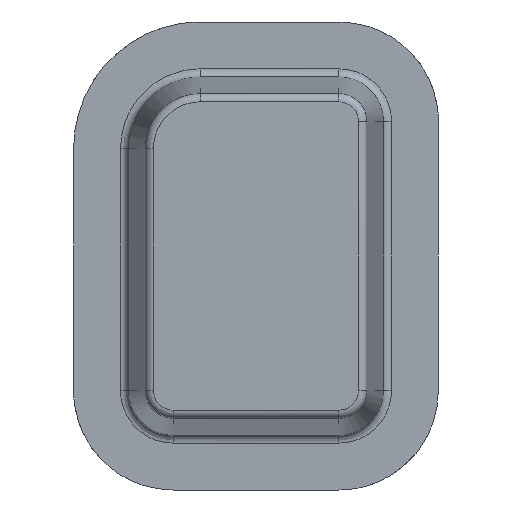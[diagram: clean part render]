
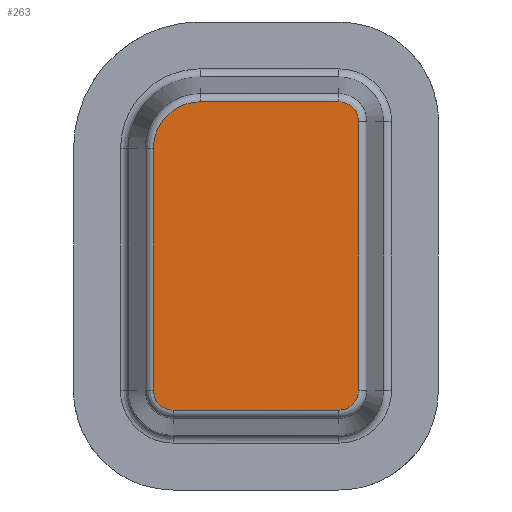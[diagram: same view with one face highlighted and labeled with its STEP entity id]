
A CAD part, front view. The second image highlights one B-rep face of the part: STEP entity #263.
In plain terms, the highlighted planar face has unit normal (0, -1, 0).
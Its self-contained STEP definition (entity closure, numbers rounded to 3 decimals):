
#144=CARTESIAN_POINT('Axis2P3D Location',(41.58,0.,58.42)) ;
#149=CARTESIAN_POINT('Line Origine',(2.749,0.,54.5)) ;
#153=CARTESIAN_POINT('Vertex',(2.749,0.,99.)) ;
#155=CARTESIAN_POINT('Vertex',(2.749,0.,10.)) ;
#159=CARTESIAN_POINT('Control Point',(2.749,0.,10.)) ;
#160=CARTESIAN_POINT('Control Point',(2.749,0.,9.039)) ;
#161=CARTESIAN_POINT('Control Point',(2.908,0.,8.077)) ;
#162=CARTESIAN_POINT('Control Point',(3.227,0.,7.153)) ;
#163=CARTESIAN_POINT('Control Point',(4.157,0.,5.443)) ;
#164=CARTESIAN_POINT('Control Point',(5.588,0.,4.125)) ;
#165=CARTESIAN_POINT('Control Point',(6.407,0.,3.591)) ;
#166=CARTESIAN_POINT('Control Point',(7.616,0.,3.064)) ;
#167=CARTESIAN_POINT('Control Point',(8.898,0.,2.821)) ;
#168=CARTESIAN_POINT('Control Point',(9.236,0.,2.777)) ;
#169=CARTESIAN_POINT('Control Point',(9.593,0.,2.752)) ;
#170=CARTESIAN_POINT('Control Point',(9.951,0.,2.749)) ;
#171=CARTESIAN_POINT('Control Point',(9.967,0.,2.749)) ;
#172=CARTESIAN_POINT('Control Point',(9.983,0.,2.749)) ;
#173=CARTESIAN_POINT('Control Point',(10.,0.,2.749)) ;
#174=CARTESIAN_POINT('Vertex',(10.,0.,2.749)) ;
#177=CARTESIAN_POINT('Line Origine',(40.5,0.,2.749)) ;
#181=CARTESIAN_POINT('Vertex',(71.,0.,2.749)) ;
#185=CARTESIAN_POINT('Control Point',(71.,0.,2.749)) ;
#186=CARTESIAN_POINT('Control Point',(71.961,0.,2.749)) ;
#187=CARTESIAN_POINT('Control Point',(72.923,0.,2.908)) ;
#188=CARTESIAN_POINT('Control Point',(73.847,0.,3.227)) ;
#189=CARTESIAN_POINT('Control Point',(75.557,0.,4.157)) ;
#190=CARTESIAN_POINT('Control Point',(76.875,0.,5.588)) ;
#191=CARTESIAN_POINT('Control Point',(77.409,0.,6.407)) ;
#192=CARTESIAN_POINT('Control Point',(77.936,0.,7.616)) ;
#193=CARTESIAN_POINT('Control Point',(78.179,0.,8.898)) ;
#194=CARTESIAN_POINT('Control Point',(78.223,0.,9.236)) ;
#195=CARTESIAN_POINT('Control Point',(78.248,0.,9.593)) ;
#196=CARTESIAN_POINT('Control Point',(78.251,0.,9.951)) ;
#197=CARTESIAN_POINT('Control Point',(78.251,0.,9.967)) ;
#198=CARTESIAN_POINT('Control Point',(78.251,0.,9.983)) ;
#199=CARTESIAN_POINT('Control Point',(78.251,0.,10.)) ;
#200=CARTESIAN_POINT('Vertex',(78.251,0.,10.)) ;
#203=CARTESIAN_POINT('Line Origine',(78.251,0.,59.5)) ;
#207=CARTESIAN_POINT('Vertex',(78.251,0.,109.)) ;
#211=CARTESIAN_POINT('Control Point',(78.251,0.,109.)) ;
#212=CARTESIAN_POINT('Control Point',(78.251,0.,109.961)) ;
#213=CARTESIAN_POINT('Control Point',(78.092,0.,110.923)) ;
#214=CARTESIAN_POINT('Control Point',(77.773,0.,111.847)) ;
#215=CARTESIAN_POINT('Control Point',(76.843,0.,113.557)) ;
#216=CARTESIAN_POINT('Control Point',(75.412,0.,114.875)) ;
#217=CARTESIAN_POINT('Control Point',(74.593,0.,115.409)) ;
#218=CARTESIAN_POINT('Control Point',(73.384,0.,115.936)) ;
#219=CARTESIAN_POINT('Control Point',(72.102,0.,116.179)) ;
#220=CARTESIAN_POINT('Control Point',(71.764,0.,116.223)) ;
#221=CARTESIAN_POINT('Control Point',(71.407,0.,116.248)) ;
#222=CARTESIAN_POINT('Control Point',(71.049,0.,116.251)) ;
#223=CARTESIAN_POINT('Control Point',(71.033,0.,116.251)) ;
#224=CARTESIAN_POINT('Control Point',(71.017,0.,116.251)) ;
#225=CARTESIAN_POINT('Control Point',(71.,0.,116.251)) ;
#226=CARTESIAN_POINT('Vertex',(71.,0.,116.251)) ;
#229=CARTESIAN_POINT('Line Origine',(45.5,0.,116.251)) ;
#233=CARTESIAN_POINT('Vertex',(20.,0.,116.251)) ;
#237=CARTESIAN_POINT('Control Point',(20.,0.,116.251)) ;
#238=CARTESIAN_POINT('Control Point',(18.077,0.,116.251)) ;
#239=CARTESIAN_POINT('Control Point',(16.154,0.,115.983)) ;
#240=CARTESIAN_POINT('Control Point',(14.282,0.,115.447)) ;
#241=CARTESIAN_POINT('Control Point',(10.736,0.,113.869)) ;
#242=CARTESIAN_POINT('Control Point',(7.758,0.,111.383)) ;
#243=CARTESIAN_POINT('Control Point',(6.452,0.,109.938)) ;
#244=CARTESIAN_POINT('Control Point',(4.493,0.,107.046)) ;
#245=CARTESIAN_POINT('Control Point',(3.314,0.,103.769)) ;
#246=CARTESIAN_POINT('Control Point',(2.954,0.,102.259)) ;
#247=CARTESIAN_POINT('Control Point',(2.762,0.,100.685)) ;
#248=CARTESIAN_POINT('Control Point',(2.749,0.,99.11)) ;
#249=CARTESIAN_POINT('Control Point',(2.749,0.,99.073)) ;
#250=CARTESIAN_POINT('Control Point',(2.749,0.,99.037)) ;
#251=CARTESIAN_POINT('Control Point',(2.749,0.,99.)) ;
#145=DIRECTION('Axis2P3D Direction',(0.,-1.,0.)) ;
#146=DIRECTION('Axis2P3D XDirection',(0.073,0.,0.997)) ;
#150=DIRECTION('Vector Direction',(0.,0.,1.)) ;
#178=DIRECTION('Vector Direction',(1.,0.,0.)) ;
#204=DIRECTION('Vector Direction',(0.,0.,1.)) ;
#230=DIRECTION('Vector Direction',(-1.,0.,0.)) ;
#147=AXIS2_PLACEMENT_3D('Plane Axis2P3D',#144,#145,#146) ;
#254=ORIENTED_EDGE('',*,*,#157,.T.) ;
#255=ORIENTED_EDGE('',*,*,#176,.T.) ;
#256=ORIENTED_EDGE('',*,*,#183,.T.) ;
#257=ORIENTED_EDGE('',*,*,#202,.T.) ;
#258=ORIENTED_EDGE('',*,*,#209,.T.) ;
#259=ORIENTED_EDGE('',*,*,#228,.T.) ;
#260=ORIENTED_EDGE('',*,*,#235,.T.) ;
#261=ORIENTED_EDGE('',*,*,#252,.T.) ;
#151=VECTOR('Line Direction',#150,1.) ;
#179=VECTOR('Line Direction',#178,1.) ;
#205=VECTOR('Line Direction',#204,1.) ;
#231=VECTOR('Line Direction',#230,1.) ;
#263=ADVANCED_FACE('base',(#262),#148,.T.) ;
#158=B_SPLINE_CURVE_WITH_KNOTS('',5,(#159,#160,#161,#162,#163,#164,#165,#166,#167,#168,#169,#170,#171,#172,#173),.UNSPECIFIED.,.F.,.U.,(6,3,3,3,6),(29.43,39.716,50.007,53.653,53.83),.UNSPECIFIED.) ;
#184=B_SPLINE_CURVE_WITH_KNOTS('',5,(#185,#186,#187,#188,#189,#190,#191,#192,#193,#194,#195,#196,#197,#198,#199),.UNSPECIFIED.,.F.,.U.,(6,3,3,3,6),(29.431,39.716,50.007,53.653,53.83),.UNSPECIFIED.) ;
#210=B_SPLINE_CURVE_WITH_KNOTS('',5,(#211,#212,#213,#214,#215,#216,#217,#218,#219,#220,#221,#222,#223,#224,#225),.UNSPECIFIED.,.F.,.U.,(6,3,3,3,6),(29.431,39.716,50.007,53.653,53.83),.UNSPECIFIED.) ;
#236=B_SPLINE_CURVE_WITH_KNOTS('',5,(#237,#238,#239,#240,#241,#242,#243,#244,#245,#246,#247,#248,#249,#250,#251),.UNSPECIFIED.,.F.,.U.,(6,3,3,3,6),(41.442,57.711,74.,87.023,87.332),.UNSPECIFIED.) ;
#157=EDGE_CURVE('',#154,#156,#152,.F.) ;
#176=EDGE_CURVE('',#156,#175,#158,.T.) ;
#183=EDGE_CURVE('',#175,#182,#180,.T.) ;
#202=EDGE_CURVE('',#182,#201,#184,.T.) ;
#209=EDGE_CURVE('',#201,#208,#206,.T.) ;
#228=EDGE_CURVE('',#208,#227,#210,.T.) ;
#235=EDGE_CURVE('',#227,#234,#232,.T.) ;
#252=EDGE_CURVE('',#234,#154,#236,.T.) ;
#253=EDGE_LOOP('',(#254,#255,#256,#257,#258,#259,#260,#261)) ;
#262=FACE_OUTER_BOUND('',#253,.T.) ;
#152=LINE('Line',#149,#151) ;
#180=LINE('Line',#177,#179) ;
#206=LINE('Line',#203,#205) ;
#232=LINE('Line',#229,#231) ;
#148=PLANE('',#147) ;
#154=VERTEX_POINT('',#153) ;
#156=VERTEX_POINT('',#155) ;
#175=VERTEX_POINT('',#174) ;
#182=VERTEX_POINT('',#181) ;
#201=VERTEX_POINT('',#200) ;
#208=VERTEX_POINT('',#207) ;
#227=VERTEX_POINT('',#226) ;
#234=VERTEX_POINT('',#233) ;
